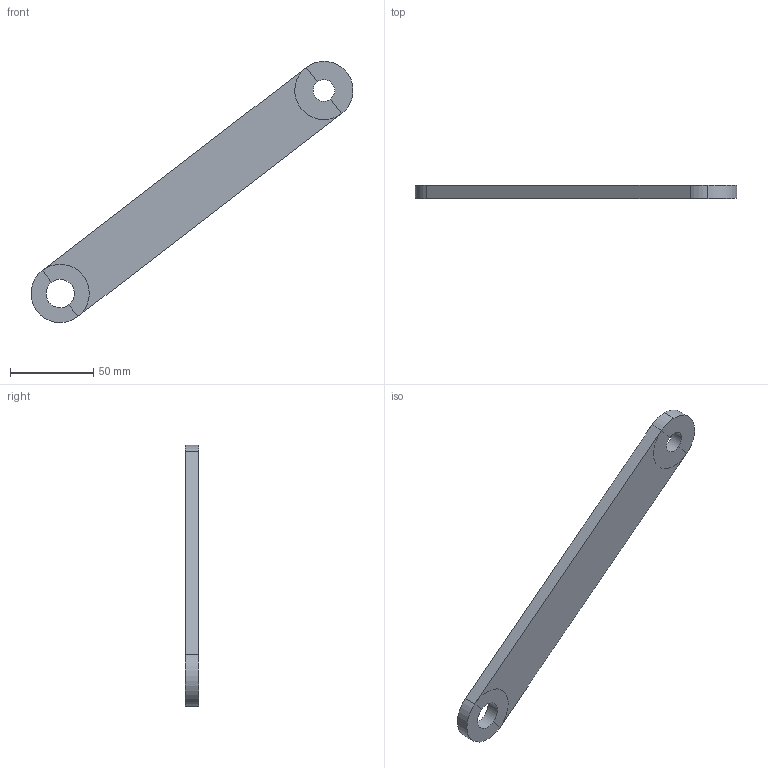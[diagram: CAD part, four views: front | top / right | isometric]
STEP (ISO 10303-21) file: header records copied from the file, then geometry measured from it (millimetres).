
FILE_DESCRIPTION(('Open CASCADE Model'),'2;1');
FILE_NAME('Open CASCADE Shape Model','2026-10-20T13:19:34',('Author'),( 'Open CASCADE'),'Open CASCADE STEP processor 7.9','Open CASCADE 7.9' ,'Unknown');
FILE_SCHEMA(('AUTOMOTIVE_DESIGN { 1 0 10303 214 1 1 1 1 }'));
Length unit declared in the file: millimetre
Products named in the file (1): Open CASCADE STEP translator 7.9 3
Bounding box: 193.41 x 8 x 156.99 mm (x, y, z)
Volume: 60819.2 mm3; surface area: 20038.4 mm2
Topology: 1 solids, 1 shells, 17 faces, 43 edges, 24 vertices
Faces by surface type: plane 12, cylinder 5
Full cylindrical faces by diameter (mm): 13 x1, 17 x1
Entity records: 1086 total; most frequent: DIRECTION 189, CARTESIAN_POINT 171, ORIENTED_EDGE 86, PCURVE 86, DEFINITIONAL_REPRESENTATION 86, LINE 75, VECTOR 75, CIRCLE 54
